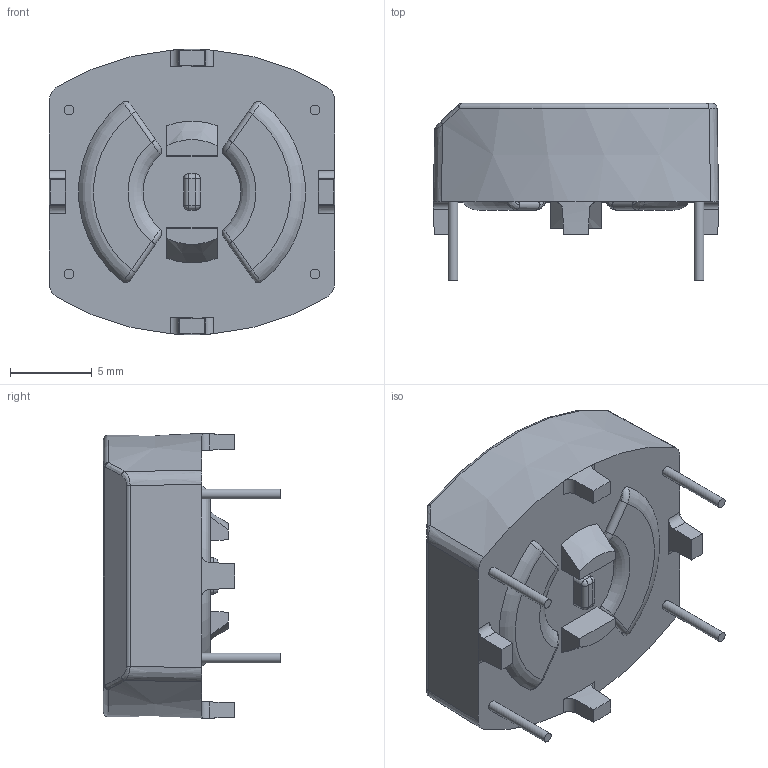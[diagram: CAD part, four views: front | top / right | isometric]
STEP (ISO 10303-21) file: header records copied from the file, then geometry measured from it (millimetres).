
FILE_DESCRIPTION(/* description */ (''),/* implementation_level */ '2;1');
FILE_NAME(/* name */ 'C:\SapWorkDir\Inventor\P01\ConvertTempPath\1013183_STP_000.ipt.stp',/* time_stamp */ '2019-02-27T11:20:43+01:00',/* author */ ('Christian.Ackermann'),/* organization */ ('Schaffner EMV AG'),/* preprocessor_version */ 'ST-DEVELOPER v16.5',/* originating_system */ 'Autodesk Inventor 2017',/* authorisation */ '');
FILE_SCHEMA (('AUTOMOTIVE_DESIGN { 1 0 10303 214 3 1 1 }'));
Length unit declared in the file: millimetre
Products named in the file (1): 819692
Bounding box: 17.4 x 10.8 x 17.39 mm (x, y, z)
Volume: 1648 mm3; surface area: 1080.1 mm2
Topology: 1 solids, 3 shells, 129 faces, 300 edges, 186 vertices
Faces by surface type: plane 48, cylinder 31, bspline 28, cone 10, torus 6, sphere 6
Full cylindrical faces by diameter (mm): 0.6 x4
Entity records: 4498 total; most frequent: CARTESIAN_POINT 1501, ORIENTED_EDGE 592, DIRECTION 570, EDGE_CURVE 296, AXIS2_PLACEMENT_3D 230, VERTEX_POINT 186, EDGE_LOOP 142, FACE_OUTER_BOUND 129
